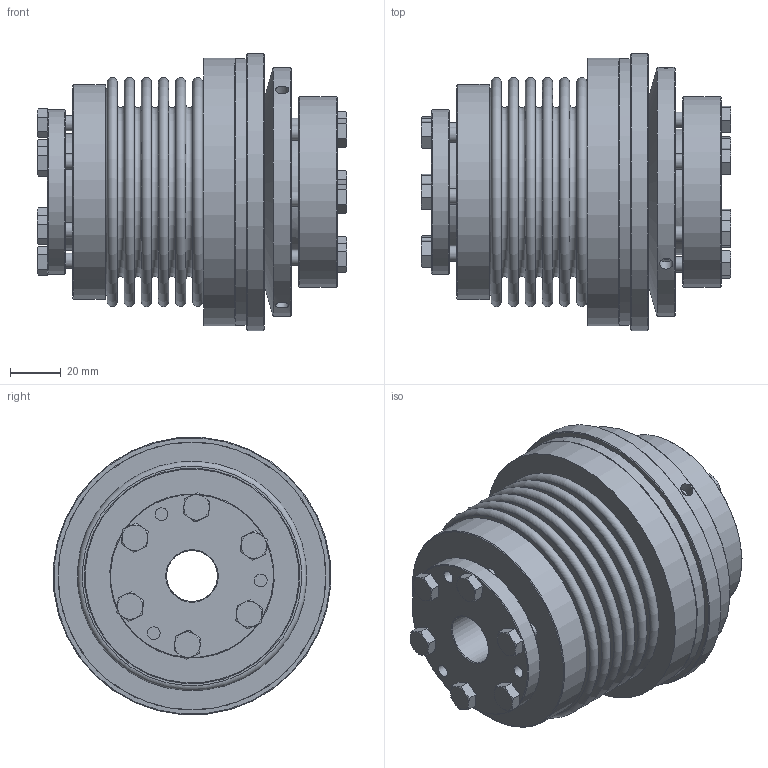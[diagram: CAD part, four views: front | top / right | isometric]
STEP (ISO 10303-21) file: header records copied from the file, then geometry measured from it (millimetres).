
FILE_DESCRIPTION( ( 'Unknown' ), '1' );
FILE_NAME( 'K:/Konstruktion/Korrigierte 3D Modelle/KBK-B-IA/KBK-BIA-200-123.stp', 'Unknown', ( 'Unknown' ), ( 'Unknown' ), 'PSStep 16.0.42', 'Unknown', ' ' );
FILE_SCHEMA( ( 'AUTOMOTIVE_DESIGN { 1 0 10303 214 1 1 1 1 }' ) );
Length unit declared in the file: millimetre
Products named in the file (18): KBK L-A-200 Grundkörper; Druckring 200; Stellring 200; din_en_24017_m6x25_0; Druckring L-A-200; BA5-200; BA200_Standard_3; Hex Screw GradeC_ISO_ISO 4018 - M6 x 25-NN_3; KB200_Standard_3; A-200; Assem1; BL200_Standard_0; Flansch BK200
Assembly tree (27 placements, depth 4):
  Assem1
    BL200_Standard_0
    Flansch BK200
    BA5-200
      BA200_Standard_3
      Hex Screw GradeC_ISO_ISO 4018 - M6 x 25-NN_3  x6
      KB200_Standard_3
    A-200
      Stellring 200
        Stellring 200
      Druckring 200
        Druckring 200
      KBK L-A-200 Grundkörper
        KBK L-A-200 Grundkörper
      din_en_24017_m6x25_0  x6
        din_en_24017_m6x25_0
      Druckring L-A-200
        Druckring L-A-200
Bounding box: 121.5 x 108.72 x 108.72 mm (x, y, z)
Volume: 479287.3 mm3; surface area: 214913.3 mm2
Topology: 20 solids, 20 shells, 439 faces, 911 edges, 579 vertices
Faces by surface type: plane 197, cone 128, cylinder 80, torus 34
Full cylindrical faces by diameter (mm): 3.242 x3, 4.917 x6, 5 x3, 5.2 x6, 6 x18, 6.5 x6, 6.6 x6, 8.8 x6, 20 x2, 46 x1, 47 x1, 49.29 x1, 50 x2, 60 x1, 62 x1, 63 x1, 64.5 x1, 65 x1, 66 x2, 75 x1, 77 x1, 79.2 x2, 80.4 x2, 84.5 x1, 90 x1, 98 x1, 105 x2, 109 x1
Entity records: 8494 total; most frequent: CARTESIAN_POINT 1377, DIRECTION 1112, ORIENTED_EDGE 678, AXIS2_PLACEMENT_3D 532, EDGE_LOOP 484, EDGE_CURVE 339, FACE_OUTER_BOUND 338, VERTEX_POINT 303
